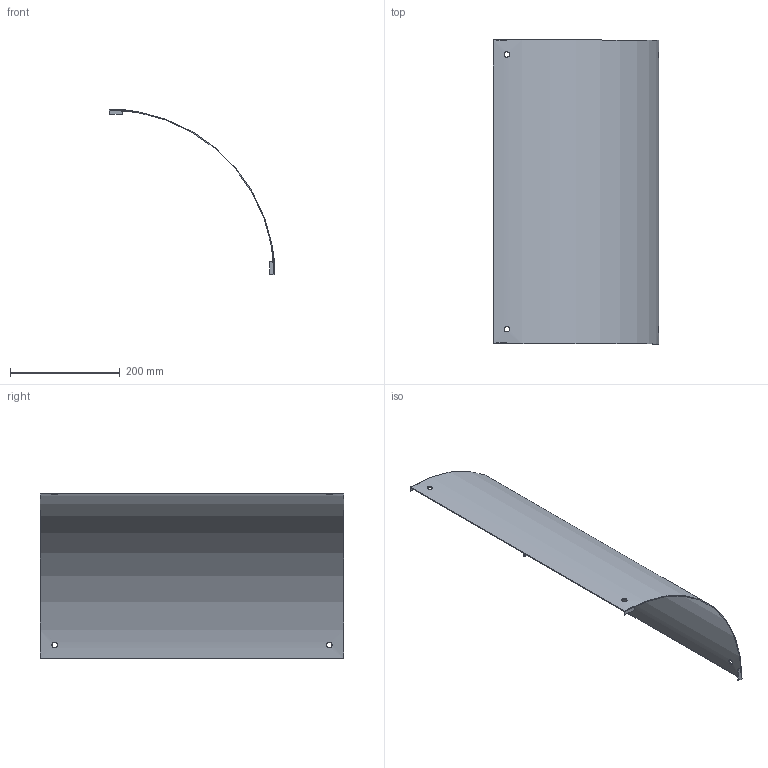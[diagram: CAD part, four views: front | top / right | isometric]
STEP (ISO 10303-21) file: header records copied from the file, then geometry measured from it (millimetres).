
FILE_DESCRIPTION(/* description */ ('','CAx-IF Rec.Pracs.---Representation and Presentation of Product Manufacturing Information (PMI)---4.0---2014-10-13'),/* implementation_level */ '2;1');
FILE_NAME(/* name */ 'Eurostrut_EORC500-90-300_Cover Outside Riser 90 for Cable Ladder ECL.step',/* time_stamp */ '2026-09-10T12:23:37+02:00',/* author */ (''),/* organization */ (''),/* preprocessor_version */ 'ST-DEVELOPER v20.1',/* originating_system */ 'Autodesk Revit 2027 27.2.0.39',/* authorisation */ '');
FILE_SCHEMA (('AP242_MANAGED_MODEL_BASED_3D_ENGINEERING_MIM_LF { 1 0 10303 442 2 1 4 }'));
Length unit declared in the file: millimetre
Products named in the file (3): TopLevelAssembly; Sweep; Joined Solid Geometry
Assembly tree (2 placements, depth 2):
  TopLevelAssembly
    Sweep
    Joined Solid Geometry
Bounding box: 301.5 x 553 x 301.5 mm (x, y, z)
Volume: 392525 mm3; surface area: 527022.1 mm2
Topology: 5 solids, 5 shells, 38 faces, 84 edges, 56 vertices
Faces by surface type: plane 20, cylinder 18
Entity records: 1356 total; most frequent: CARTESIAN_POINT 459, DIRECTION 174, ORIENTED_EDGE 168, EDGE_CURVE 84, AXIS2_PLACEMENT_3D 63, VERTEX_POINT 56, LINE 48, VECTOR 48
